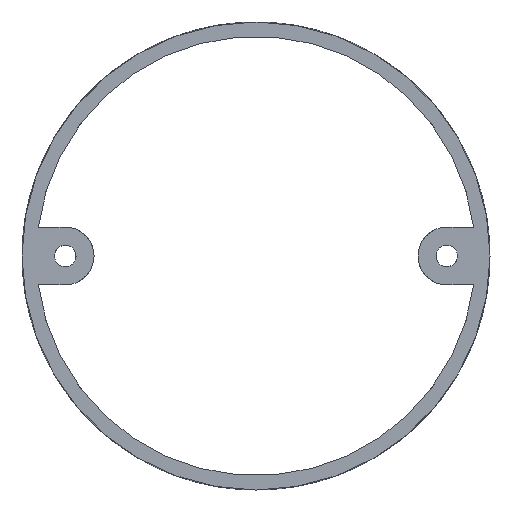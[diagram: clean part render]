
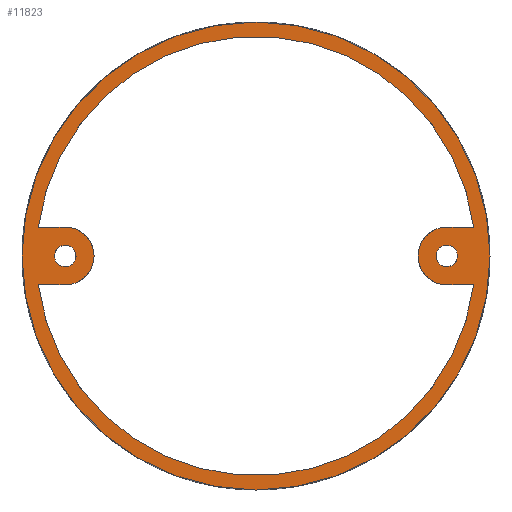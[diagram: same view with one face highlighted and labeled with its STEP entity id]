
A CAD part, front view. The second image highlights one B-rep face of the part: STEP entity #11823.
In plain terms, the highlighted planar face has unit normal (0, -1, 0).
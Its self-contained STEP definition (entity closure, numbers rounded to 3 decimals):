
#198=FACE_BOUND('',#1513,.T.);
#199=FACE_BOUND('',#1514,.T.);
#200=FACE_BOUND('',#1515,.T.);
#203=CIRCLE('',#11863,30.5);
#205=CIRCLE('',#11865,30.5);
#217=CIRCLE('',#12242,1.5);
#218=CIRCLE('',#12245,4.);
#221=CIRCLE('',#12258,1.5);
#222=CIRCLE('',#12261,4.);
#224=CIRCLE('',#13090,32.5);
#791=FACE_OUTER_BOUND('',#1512,.T.);
#1512=EDGE_LOOP('',(#10165));
#1513=EDGE_LOOP('',(#10166));
#1514=EDGE_LOOP('',(#10167));
#1515=EDGE_LOOP('',(#10168,#10169,#10170,#10171,#10172,#10173,#10174,#10175));
#2451=LINE('',#17943,#3403);
#2455=LINE('',#17954,#3407);
#2476=LINE('',#18002,#3428);
#2480=LINE('',#18013,#3432);
#3403=VECTOR('',#14158,10.);
#3407=VECTOR('',#14170,10.);
#3428=VECTOR('',#14215,10.);
#3432=VECTOR('',#14227,10.);
#4125=VERTEX_POINT('',#16620);
#4126=VERTEX_POINT('',#16622);
#4129=VERTEX_POINT('',#16628);
#4130=VERTEX_POINT('',#16630);
#4682=VERTEX_POINT('',#17938);
#4683=VERTEX_POINT('',#17942);
#4685=VERTEX_POINT('',#17948);
#4700=VERTEX_POINT('',#17997);
#4701=VERTEX_POINT('',#18001);
#4703=VERTEX_POINT('',#18007);
#5195=VERTEX_POINT('',#19988);
#5231=EDGE_CURVE('',#4125,#4126,#203,.T.);
#5235=EDGE_CURVE('',#4129,#4130,#205,.T.);
#5829=EDGE_CURVE('',#4682,#4682,#217,.T.);
#5830=EDGE_CURVE('',#4683,#4125,#2451,.T.);
#5833=EDGE_CURVE('',#4685,#4683,#218,.T.);
#5836=EDGE_CURVE('',#4130,#4685,#2455,.T.);
#5858=EDGE_CURVE('',#4700,#4700,#221,.T.);
#5859=EDGE_CURVE('',#4701,#4129,#2476,.T.);
#5862=EDGE_CURVE('',#4703,#4701,#222,.T.);
#5865=EDGE_CURVE('',#4126,#4703,#2480,.T.);
#6855=EDGE_CURVE('',#5195,#5195,#224,.T.);
#10165=ORIENTED_EDGE('',*,*,#6855,.F.);
#10166=ORIENTED_EDGE('',*,*,#5829,.F.);
#10167=ORIENTED_EDGE('',*,*,#5858,.F.);
#10168=ORIENTED_EDGE('',*,*,#5235,.F.);
#10169=ORIENTED_EDGE('',*,*,#5859,.F.);
#10170=ORIENTED_EDGE('',*,*,#5862,.F.);
#10171=ORIENTED_EDGE('',*,*,#5865,.F.);
#10172=ORIENTED_EDGE('',*,*,#5231,.F.);
#10173=ORIENTED_EDGE('',*,*,#5830,.F.);
#10174=ORIENTED_EDGE('',*,*,#5833,.F.);
#10175=ORIENTED_EDGE('',*,*,#5836,.F.);
#10715=PLANE('',#13091);
#11823=ADVANCED_FACE('',(#791,#198,#199,#200),#10715,.F.);
#11863=AXIS2_PLACEMENT_3D('',#16623,#13153,#13154);
#11865=AXIS2_PLACEMENT_3D('',#16631,#13159,#13160);
#12242=AXIS2_PLACEMENT_3D('',#17940,#14154,#14155);
#12245=AXIS2_PLACEMENT_3D('',#17949,#14163,#14164);
#12258=AXIS2_PLACEMENT_3D('',#17999,#14211,#14212);
#12261=AXIS2_PLACEMENT_3D('',#18008,#14220,#14221);
#13090=AXIS2_PLACEMENT_3D('',#19990,#16539,#16540);
#13091=AXIS2_PLACEMENT_3D('',#19991,#16541,#16542);
#13153=DIRECTION('center_axis',(0.,-1.,0.));
#13154=DIRECTION('ref_axis',(1.,0.,0.));
#13159=DIRECTION('center_axis',(0.,-1.,0.));
#13160=DIRECTION('ref_axis',(1.,0.,0.));
#14154=DIRECTION('center_axis',(0.,-1.,0.));
#14155=DIRECTION('ref_axis',(-1.,0.,0.));
#14158=DIRECTION('',(-1.,0.,0.));
#14163=DIRECTION('center_axis',(0.,1.,0.));
#14164=DIRECTION('ref_axis',(1.,0.,0.));
#14170=DIRECTION('',(1.,0.,0.));
#14211=DIRECTION('center_axis',(0.,-1.,0.));
#14212=DIRECTION('ref_axis',(1.,0.,0.));
#14215=DIRECTION('',(1.,0.,0.));
#14220=DIRECTION('center_axis',(0.,1.,0.));
#14221=DIRECTION('ref_axis',(-1.,0.,0.));
#14227=DIRECTION('',(-1.,0.,0.));
#16539=DIRECTION('center_axis',(0.,1.,0.));
#16540=DIRECTION('ref_axis',(-1.,0.,0.));
#16541=DIRECTION('center_axis',(0.,1.,0.));
#16542=DIRECTION('ref_axis',(0.,0.,1.));
#16620=CARTESIAN_POINT('',(-30.237,0.,-4.));
#16622=CARTESIAN_POINT('',(30.237,0.,-4.));
#16623=CARTESIAN_POINT('Origin',(0.,0.,0.));
#16628=CARTESIAN_POINT('',(30.237,0.,4.));
#16630=CARTESIAN_POINT('',(-30.237,0.,4.));
#16631=CARTESIAN_POINT('Origin',(0.,0.,0.));
#17938=CARTESIAN_POINT('',(-25.,0.,0.));
#17940=CARTESIAN_POINT('Origin',(-26.5,0.,0.));
#17942=CARTESIAN_POINT('',(-26.5,0.,-4.));
#17943=CARTESIAN_POINT('',(-26.5,0.,-4.));
#17948=CARTESIAN_POINT('',(-26.5,0.,4.));
#17949=CARTESIAN_POINT('Origin',(-26.5,0.,0.));
#17954=CARTESIAN_POINT('',(-30.237,0.,4.));
#17997=CARTESIAN_POINT('',(25.,0.,0.));
#17999=CARTESIAN_POINT('Origin',(26.5,0.,0.));
#18001=CARTESIAN_POINT('',(26.5,0.,4.));
#18002=CARTESIAN_POINT('',(26.5,0.,4.));
#18007=CARTESIAN_POINT('',(26.5,0.,-4.));
#18008=CARTESIAN_POINT('Origin',(26.5,0.,0.));
#18013=CARTESIAN_POINT('',(30.237,0.,-4.));
#19988=CARTESIAN_POINT('',(32.5,0.,0.));
#19990=CARTESIAN_POINT('Origin',(0.,0.,0.));
#19991=CARTESIAN_POINT('Origin',(0.,0.,0.));
